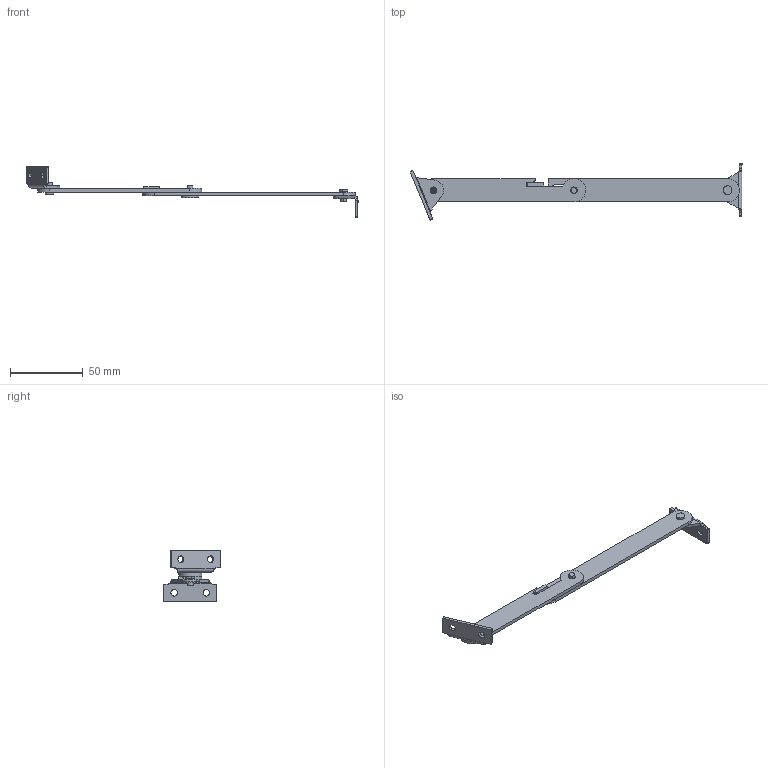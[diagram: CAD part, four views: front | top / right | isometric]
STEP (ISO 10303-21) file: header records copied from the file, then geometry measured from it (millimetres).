
FILE_DESCRIPTION (( 'STEP AP214' ), '1' );
FILE_NAME ('4.401.303.STEP', '2016-09-09T06:53:39', ( '' ), ( '' ), 'SwSTEP 2.0', 'SolidWorks 2015', '' );
FILE_SCHEMA (( 'AUTOMOTIVE_DESIGN' ));
Length unit declared in the file: millimetre
Products named in the file (6): 4.401.301.05_A; 4.401.301.04_A; 4.401.301.03_A; 4.401.301.02_303; 4.401.301.01_303; 4.401.303
Assembly tree (7 placements, depth 2):
  4.401.303
    4.401.301.01_303
    4.401.301.02_303
    4.401.301.03_A  x2
    4.401.301.04_A
    4.401.301.05_A  x2
Bounding box: 227.46 x 38.6 x 34.98 mm (x, y, z)
Volume: 12552.1 mm3; surface area: 13235.3 mm2
Topology: 7 solids, 7 shells, 138 faces, 328 edges, 206 vertices
Faces by surface type: cylinder 67, plane 54, bspline 9, cone 8
Entity records: 3064 total; most frequent: CARTESIAN_POINT 565, DIRECTION 496, ORIENTED_EDGE 448, EDGE_CURVE 224, AXIS2_PLACEMENT_3D 190, VERTEX_POINT 143, LINE 116, VECTOR 116
